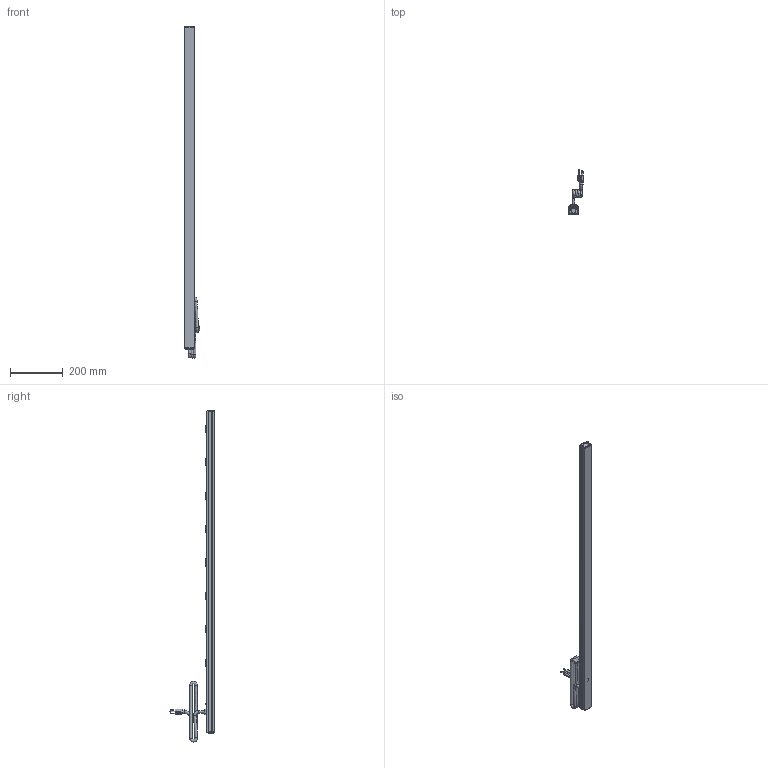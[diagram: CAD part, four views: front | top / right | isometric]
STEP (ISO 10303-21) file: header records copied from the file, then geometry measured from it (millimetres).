
FILE_DESCRIPTION((''),'2;1');
FILE_NAME('E:\Dutton\Manufacturing\drawings\Updated 2009\Vertical Rack Mount Strips\1585 Series\STEP''s\1585T8A1.stp','2010-01-19T07:23:52',('tfoster'),(''),'Autodesk Inventor 2010','Autodesk Inventor 2010','');
FILE_SCHEMA(('AUTOMOTIVE_DESIGN { 1 0 10303 214 1 1 1 1 }'));
Products named in the file (12): 1585T8A1; 1585H8 top; 1585 bottom; End Cap; End Cap w breaker; Reset Switch; #6 - 0.375 Type A screw; Cored 2; toothwasher; round head 1-way 8-32 x 0.5 screw; Receptacle; Pilot light
Assembly tree (21 placements, depth 2):
  1585T8A1
    1585H8 top
    1585 bottom
    End Cap
    End Cap w breaker
    Reset Switch
    #6 - 0.375 Type A screw  x4
    Cored 2
    toothwasher
    round head 1-way 8-32 x 0.5 screw
    Receptacle  x8
    Pilot light
Bounding box: 60.19 x 170.82 x 1262.78 mm (x, y, z)
Volume: 498741.9 mm3; surface area: 476918.7 mm2
Topology: 21 solids, 21 shells, 1048 faces, 3040 edges, 2026 vertices
Faces by surface type: plane 628, cylinder 237, bspline 105, sphere 38, cone 25, torus 15
Full cylindrical faces by diameter (mm): 1.803 x3, 1.905 x2, 3 x2, 3.175 x12, 4.3 x1, 4.775 x1, 4.826 x1, 7.849 x1, 9.5 x5, 11 x1, 15.621 x1, 19.05 x2
Entity records: 24493 total; most frequent: CARTESIAN_POINT 8680, ORIENTED_EDGE 3414, DIRECTION 2888, EDGE_CURVE 1707, VERTEX_POINT 1211, VECTOR 1002, LINE 1002, AXIS2_PLACEMENT_3D 943
